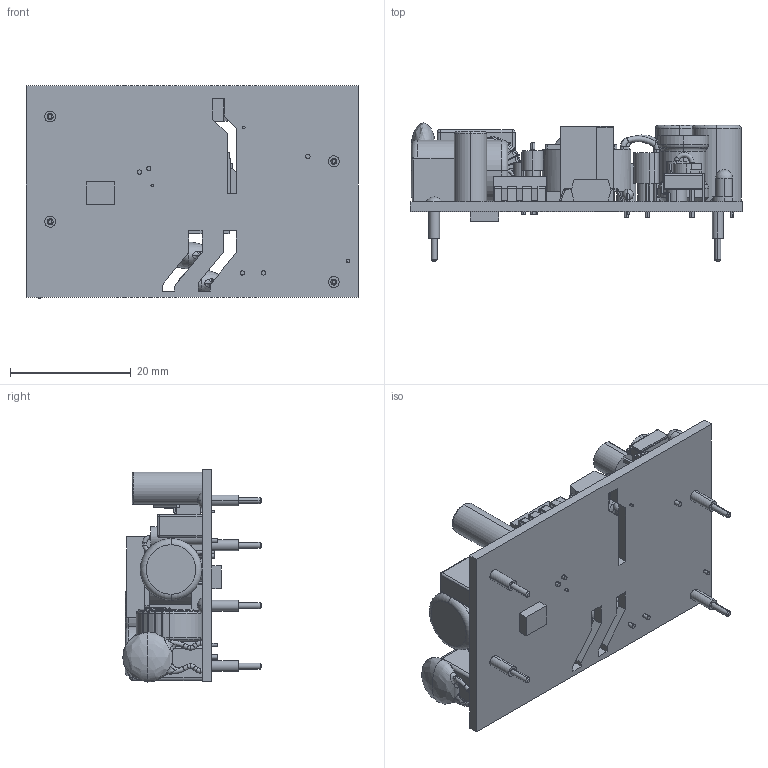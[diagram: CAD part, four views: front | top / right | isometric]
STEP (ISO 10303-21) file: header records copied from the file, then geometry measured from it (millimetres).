
FILE_DESCRIPTION (( 'STEP AP214' ), '1' );
FILE_NAME ('CFM05S.STEP', '2018-01-11T03:31:34', ( 'cincon' ), ( '' ), 'SwSTEP 2.0', 'SolidWorks 2008', '' );
FILE_SCHEMA (( 'AUTOMOTIVE_DESIGN' ));
Length unit declared in the file: millimetre
Products named in the file (1): CFM05S
Bounding box: 55 x 22.95 x 35.16 mm (x, y, z)
Volume: 11001 mm3; surface area: 10121.4 mm2
Topology: 1 solids, 1 shells, 1199 faces, 3130 edges, 1951 vertices
Faces by surface type: cylinder 427, plane 352, torus 325, bspline 43, sphere 30, cone 22
Entity records: 39127 total; most frequent: CARTESIAN_POINT 8960, DIRECTION 6857, ORIENTED_EDGE 6156, EDGE_CURVE 3078, AXIS2_PLACEMENT_3D 2774, VERTEX_POINT 1933, CIRCLE 1617, EDGE_LOOP 1317
